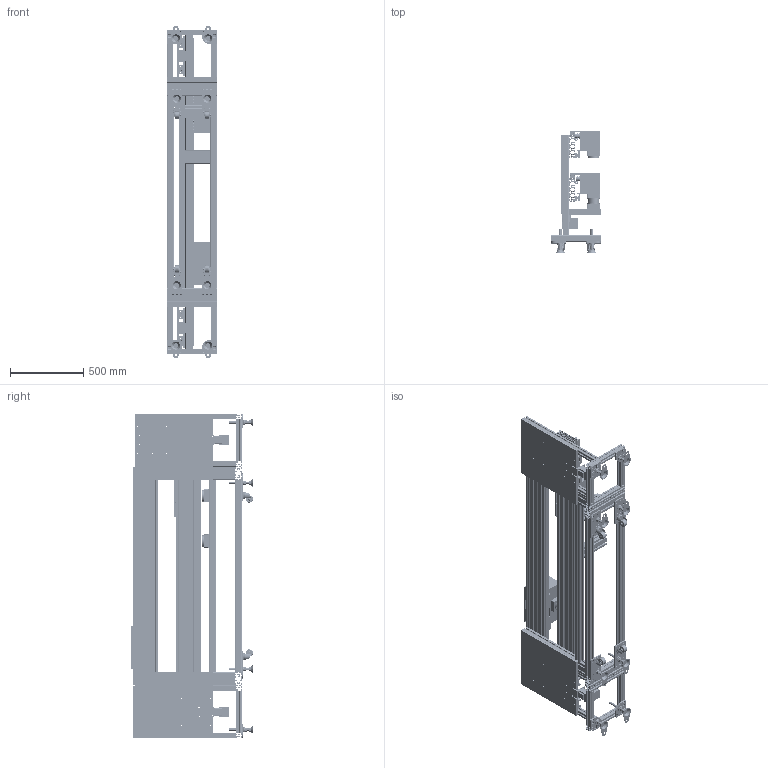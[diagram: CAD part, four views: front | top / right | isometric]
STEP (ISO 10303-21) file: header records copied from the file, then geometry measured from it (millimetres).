
FILE_DESCRIPTION (( 'STEP AP214' ), '1' );
FILE_NAME ('PHLSI35V.STEP', '2020-06-01T10:01:16', ( '' ), ( '' ), 'SwSTEP 2.0', 'SolidWorks 2019', '' );
FILE_SCHEMA (( 'AUTOMOTIVE_DESIGN' ));
Length unit declared in the file: millimetre
Products named in the file (5): PHLSI35V4; PHLSI35V1; PHLSI35V2; PHLSI35V; PHLSI35V3
Assembly tree (5 placements, depth 2):
  PHLSI35V
    PHLSI35V1
    PHLSI35V2
    PHLSI35V3
    PHLSI35V4  x2
Bounding box: 340 x 840 x 2271.94 mm (x, y, z)
Volume: 48709040.7 mm3; surface area: 17544905 mm2
Topology: 189 solids, 189 shells, 16894 faces, 45926 edges, 30328 vertices
Faces by surface type: plane 9868, cylinder 5930, cone 564, torus 412, sphere 64, bspline 56
Full cylindrical faces by diameter (mm): 2 x2, 3 x32, 3.242 x4, 3.3 x24, 4 x2, 4.134 x48, 4.2 x24, 4.5 x62, 5 x56, 5.5 x92, 6 x2, 6.6 x8, 6.8 x44, 7 x40, 8 x24, 8.5 x4, 8.6 x64, 9 x88, 9.5 x84, 10 x38, 12 x16, 14 x76, 14.3 x2, 15 x26, 16 x80, 18 x16, 19.5 x2, 20 x6, 21 x18, 27 x4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
Entity records: 643773 total; most frequent: CARTESIAN_POINT 92932, DIRECTION 80613, ORIENTED_EDGE 79174, EDGE_CURVE 39587, AXIS2_PLACEMENT_3D 27132, VERTEX_POINT 26953, LINE 26349, VECTOR 26349
